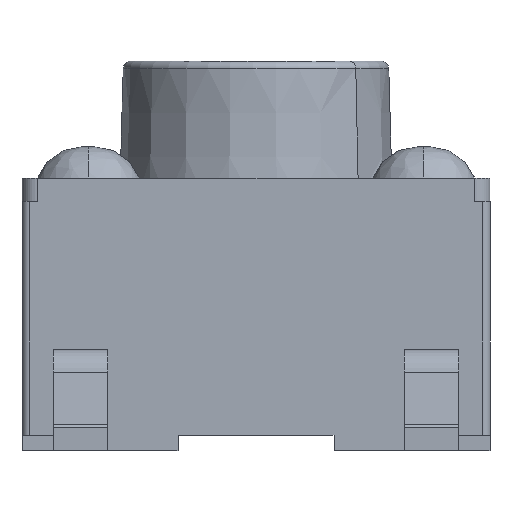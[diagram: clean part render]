
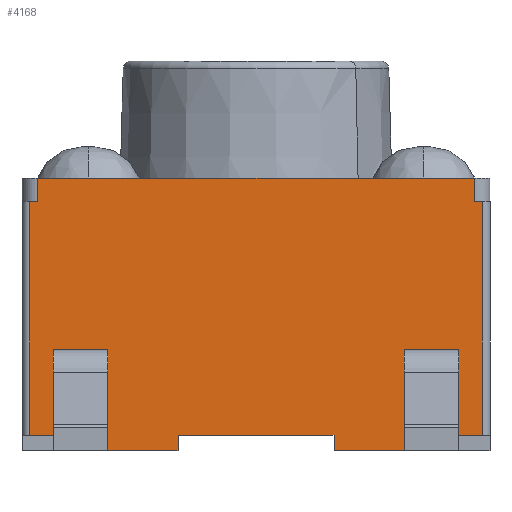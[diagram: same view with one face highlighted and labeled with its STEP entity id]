
A CAD part, left-side view. The second image highlights one B-rep face of the part: STEP entity #4168.
In plain terms, the highlighted planar face has unit normal (-1, 0, 0).
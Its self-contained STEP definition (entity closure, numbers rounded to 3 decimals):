
#231=DIRECTION('',(0.,0.,-1.));
#232=VECTOR('',#231,0.3);
#233=CARTESIAN_POINT('',(-135.346,29.618,107.082));
#234=LINE('',#233,#232);
#528=DIRECTION('',(0.,-1.,0.));
#529=VECTOR('',#528,0.1);
#530=CARTESIAN_POINT('',(-135.346,29.718,106.782));
#531=LINE('',#530,#529);
#532=DIRECTION('',(0.,-1.,0.));
#533=VECTOR('',#532,5.6);
#534=CARTESIAN_POINT('',(-135.346,29.618,107.082));
#535=LINE('',#534,#533);
#536=DIRECTION('',(0.,-1.,0.));
#537=VECTOR('',#536,0.1);
#538=CARTESIAN_POINT('',(-135.346,24.018,106.782));
#539=LINE('',#538,#537);
#540=DIRECTION('',(0.,0.,-1.));
#541=VECTOR('',#540,0.2);
#542=CARTESIAN_POINT('',(-135.346,27.818,103.782));
#543=LINE('',#542,#541);
#544=DIRECTION('',(0.,1.,0.));
#545=VECTOR('',#544,1.);
#546=CARTESIAN_POINT('',(-135.346,27.818,103.582));
#547=LINE('',#546,#545);
#548=DIRECTION('',(0.,-1.,0.));
#549=VECTOR('',#548,0.7);
#550=CARTESIAN_POINT('',(-135.346,24.918,104.882));
#551=LINE('',#550,#549);
#552=DIRECTION('',(0.,0.,1.));
#553=VECTOR('',#552,0.3);
#554=CARTESIAN_POINT('',(-135.346,24.918,104.582));
#555=LINE('',#554,#553);
#556=DIRECTION('',(0.,-1.,0.));
#557=VECTOR('',#556,0.7);
#558=CARTESIAN_POINT('',(-135.346,24.918,104.582));
#559=LINE('',#558,#557);
#560=DIRECTION('',(0.,0.,-1.));
#561=VECTOR('',#560,0.3);
#562=CARTESIAN_POINT('',(-135.346,24.218,104.882));
#563=LINE('',#562,#561);
#564=DIRECTION('',(0.,-1.,0.));
#565=VECTOR('',#564,0.7);
#566=CARTESIAN_POINT('',(-135.346,29.418,104.882));
#567=LINE('',#566,#565);
#568=DIRECTION('',(0.,0.,1.));
#569=VECTOR('',#568,0.3);
#570=CARTESIAN_POINT('',(-135.346,29.418,104.582));
#571=LINE('',#570,#569);
#572=DIRECTION('',(0.,-1.,0.));
#573=VECTOR('',#572,0.7);
#574=CARTESIAN_POINT('',(-135.346,29.418,104.582));
#575=LINE('',#574,#573);
#576=DIRECTION('',(0.,0.,-1.));
#577=VECTOR('',#576,0.3);
#578=CARTESIAN_POINT('',(-135.346,28.718,104.882));
#579=LINE('',#578,#577);
#580=DIRECTION('',(0.,0.,1.));
#581=VECTOR('',#580,0.3);
#582=CARTESIAN_POINT('',(-135.346,24.018,106.782));
#583=LINE('',#582,#581);
#637=DIRECTION('',(0.,-1.,0.));
#638=VECTOR('',#637,1.);
#639=CARTESIAN_POINT('',(-135.346,25.818,103.582));
#640=LINE('',#639,#638);
#661=DIRECTION('',(0.,0.,1.));
#662=VECTOR('',#661,0.2);
#663=CARTESIAN_POINT('',(-135.346,24.818,103.582));
#664=LINE('',#663,#662);
#669=DIRECTION('',(0.,-1.,0.));
#670=VECTOR('',#669,0.9);
#671=CARTESIAN_POINT('',(-135.346,24.818,103.782));
#672=LINE('',#671,#670);
#698=DIRECTION('',(0.,0.,1.));
#699=VECTOR('',#698,3.);
#700=CARTESIAN_POINT('',(-135.346,23.918,103.782));
#701=LINE('',#700,#699);
#770=DIRECTION('',(0.,0.,-1.));
#771=VECTOR('',#770,0.2);
#772=CARTESIAN_POINT('',(-135.346,25.818,103.782));
#773=LINE('',#772,#771);
#782=DIRECTION('',(0.,-1.,0.));
#783=VECTOR('',#782,2.);
#784=CARTESIAN_POINT('',(-135.346,27.818,103.782));
#785=LINE('',#784,#783);
#1491=DIRECTION('',(0.,-1.,0.));
#1492=VECTOR('',#1491,0.9);
#1493=CARTESIAN_POINT('',(-135.346,29.718,103.782));
#1494=LINE('',#1493,#1492);
#1516=DIRECTION('',(0.,0.,-1.));
#1517=VECTOR('',#1516,0.2);
#1518=CARTESIAN_POINT('',(-135.346,28.818,103.782));
#1519=LINE('',#1518,#1517);
#1520=DIRECTION('',(0.,0.,-1.));
#1521=VECTOR('',#1520,3.);
#1522=CARTESIAN_POINT('',(-135.346,29.718,106.782));
#1523=LINE('',#1522,#1521);
#2792=CARTESIAN_POINT('',(-135.346,27.818,103.782));
#2794=VERTEX_POINT('',#2792);
#2815=CARTESIAN_POINT('',(-135.346,28.818,103.582));
#2816=VERTEX_POINT('',#2815);
#2817=CARTESIAN_POINT('',(-135.346,27.818,103.582));
#2818=VERTEX_POINT('',#2817);
#2827=CARTESIAN_POINT('',(-135.346,29.718,106.782));
#2829=VERTEX_POINT('',#2827);
#2840=CARTESIAN_POINT('',(-135.346,23.918,106.782));
#2842=VERTEX_POINT('',#2840);
#2843=CARTESIAN_POINT('',(-135.346,24.818,103.582));
#2844=CARTESIAN_POINT('',(-135.346,24.818,103.782));
#2845=VERTEX_POINT('',#2843);
#2846=VERTEX_POINT('',#2844);
#2847=CARTESIAN_POINT('',(-135.346,25.818,103.782));
#2848=VERTEX_POINT('',#2847);
#2849=CARTESIAN_POINT('',(-135.346,29.718,103.782));
#2850=CARTESIAN_POINT('',(-135.346,28.818,103.782));
#2851=VERTEX_POINT('',#2849);
#2852=VERTEX_POINT('',#2850);
#2859=CARTESIAN_POINT('',(-135.346,23.918,103.782));
#2860=VERTEX_POINT('',#2859);
#2881=CARTESIAN_POINT('',(-135.346,25.818,103.582));
#2882=VERTEX_POINT('',#2881);
#3056=CARTESIAN_POINT('',(-135.346,29.618,107.082));
#3058=VERTEX_POINT('',#3056);
#3066=CARTESIAN_POINT('',(-135.346,24.018,107.082));
#3067=VERTEX_POINT('',#3066);
#3340=CARTESIAN_POINT('',(-135.346,29.618,106.782));
#3342=VERTEX_POINT('',#3340);
#3353=CARTESIAN_POINT('',(-135.346,24.018,106.782));
#3355=VERTEX_POINT('',#3353);
#3384=CARTESIAN_POINT('',(-135.346,24.918,104.882));
#3385=CARTESIAN_POINT('',(-135.346,24.218,104.882));
#3386=VERTEX_POINT('',#3384);
#3387=VERTEX_POINT('',#3385);
#3388=CARTESIAN_POINT('',(-135.346,24.918,104.582));
#3389=CARTESIAN_POINT('',(-135.346,24.218,104.582));
#3390=VERTEX_POINT('',#3388);
#3391=VERTEX_POINT('',#3389);
#3400=CARTESIAN_POINT('',(-135.346,29.418,104.882));
#3401=CARTESIAN_POINT('',(-135.346,28.718,104.882));
#3402=VERTEX_POINT('',#3400);
#3403=VERTEX_POINT('',#3401);
#3404=CARTESIAN_POINT('',(-135.346,29.418,104.582));
#3405=VERTEX_POINT('',#3404);
#3406=CARTESIAN_POINT('',(-135.346,28.718,104.582));
#3407=VERTEX_POINT('',#3406);
#4114=CARTESIAN_POINT('',(-135.346,26.818,105.182));
#4115=DIRECTION('',(1.,0.,0.));
#4116=DIRECTION('',(0.,1.,0.));
#4117=AXIS2_PLACEMENT_3D('',#4114,#4115,#4116);
#4118=PLANE('',#4117);
#4119=ORIENTED_EDGE('',*,*,#3826,.T.);
#4120=ORIENTED_EDGE('',*,*,#3891,.F.);
#4121=ORIENTED_EDGE('',*,*,#3951,.T.);
#4123=ORIENTED_EDGE('',*,*,#4122,.F.);
#4124=ORIENTED_EDGE('',*,*,#3876,.T.);
#4126=ORIENTED_EDGE('',*,*,#4125,.F.);
#4128=ORIENTED_EDGE('',*,*,#4127,.F.);
#4130=ORIENTED_EDGE('',*,*,#4129,.F.);
#4132=ORIENTED_EDGE('',*,*,#4131,.F.);
#4134=ORIENTED_EDGE('',*,*,#4133,.F.);
#4136=ORIENTED_EDGE('',*,*,#4135,.F.);
#4138=ORIENTED_EDGE('',*,*,#4137,.T.);
#4140=ORIENTED_EDGE('',*,*,#4139,.T.);
#4142=ORIENTED_EDGE('',*,*,#4141,.F.);
#4144=ORIENTED_EDGE('',*,*,#4143,.F.);
#4146=ORIENTED_EDGE('',*,*,#4145,.F.);
#4147=EDGE_LOOP('',(#4119,#4120,#4121,#4123,#4124,#4126,#4128,#4130,#4132,#4134,
#4136,#4138,#4140,#4142,#4144,#4146));
#4148=FACE_OUTER_BOUND('',#4147,.F.);
#4150=ORIENTED_EDGE('',*,*,#4149,.F.);
#4152=ORIENTED_EDGE('',*,*,#4151,.F.);
#4154=ORIENTED_EDGE('',*,*,#4153,.T.);
#4156=ORIENTED_EDGE('',*,*,#4155,.F.);
#4157=EDGE_LOOP('',(#4150,#4152,#4154,#4156));
#4158=FACE_BOUND('',#4157,.F.);
#4160=ORIENTED_EDGE('',*,*,#4159,.F.);
#4162=ORIENTED_EDGE('',*,*,#4161,.F.);
#4163=ORIENTED_EDGE('',*,*,#3750,.T.);
#4165=ORIENTED_EDGE('',*,*,#4164,.F.);
#4166=EDGE_LOOP('',(#4160,#4162,#4163,#4165));
#4167=FACE_BOUND('',#4166,.F.);
#3750=EDGE_CURVE('',#3405,#3407,#575,.T.);
#3826=EDGE_CURVE('',#2829,#3342,#531,.T.);
#3876=EDGE_CURVE('',#3355,#2842,#539,.T.);
#3891=EDGE_CURVE('',#3058,#3342,#234,.T.);
#3951=EDGE_CURVE('',#3058,#3067,#535,.T.);
#4122=EDGE_CURVE('',#3355,#3067,#583,.T.);
#4125=EDGE_CURVE('',#2860,#2842,#701,.T.);
#4127=EDGE_CURVE('',#2846,#2860,#672,.T.);
#4129=EDGE_CURVE('',#2845,#2846,#664,.T.);
#4131=EDGE_CURVE('',#2882,#2845,#640,.T.);
#4133=EDGE_CURVE('',#2848,#2882,#773,.T.);
#4135=EDGE_CURVE('',#2794,#2848,#785,.T.);
#4137=EDGE_CURVE('',#2794,#2818,#543,.T.);
#4139=EDGE_CURVE('',#2818,#2816,#547,.T.);
#4141=EDGE_CURVE('',#2852,#2816,#1519,.T.);
#4143=EDGE_CURVE('',#2851,#2852,#1494,.T.);
#4145=EDGE_CURVE('',#2829,#2851,#1523,.T.);
#4149=EDGE_CURVE('',#3386,#3387,#551,.T.);
#4151=EDGE_CURVE('',#3390,#3386,#555,.T.);
#4153=EDGE_CURVE('',#3390,#3391,#559,.T.);
#4155=EDGE_CURVE('',#3387,#3391,#563,.T.);
#4159=EDGE_CURVE('',#3402,#3403,#567,.T.);
#4161=EDGE_CURVE('',#3405,#3402,#571,.T.);
#4164=EDGE_CURVE('',#3403,#3407,#579,.T.);
#4168=ADVANCED_FACE('',(#4148,#4158,#4167),#4118,.F.);
